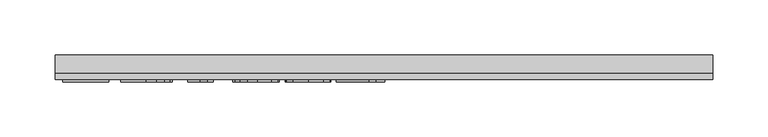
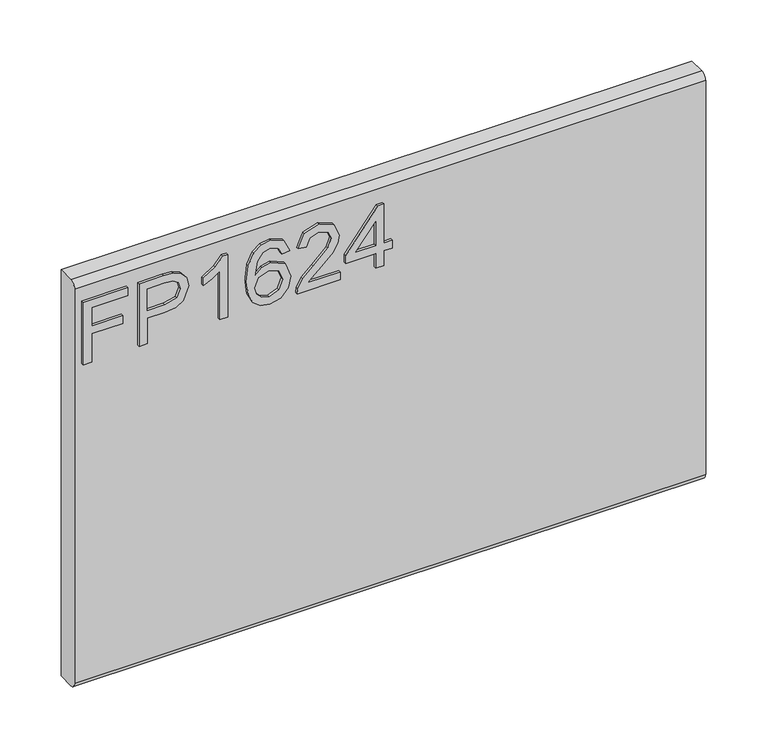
"""IFC4 building model written with IfcOpenShell, lengths in millimetres: furniture geometry."""

from ifc_helpers import new_model, si_unit, frame, origin, place, context, project, spatial, polyline, circle_curve, outline, extrude, source, transform, mapped, element, save
from ifc_brep_helpers import plane_surface, cylinder_surface, advanced_brep


def furniture_d1243616(model_context):
    return source(origin(), model_context, "Body", "SolidModel", [
        extrude(outline(polyline([(476.25, -291.6115385), (476.25, -283.7961538), (504.5807692, -283.7961538), (504.5807692, -254.4884615), (512.3961538, -254.4884615), (512.3961538, -283.7961538), (530.9576923, -283.7961538), (530.9576923, -249.6038462), (538.7730769, -249.6038462), (538.7730769, -291.6115385), (476.25, -291.6115385)])), frame((0.0, -15.0812439, 0.0), z_axis=(0.0, 1.0, 0.0), x_axis=(0.0, 0.0, 1.0)), (0.0, 0.0, 1.0), 2.38125),
        extrude(outline(polyline([(476.25, -238.8576923), (476.25, -231.0423077), (501.65, -231.0423077), (501.65, -215.1520433), (503.0314303, -204.0490835), (507.1757212, -196.995012), (520.6847356, -191.9653846), (529.2099159, -193.8276442), (535.2546274, -198.7504207), (538.1777644, -206.3444712), (538.7730769, -215.6862981), (538.7730769, -238.8576923), (476.25, -238.8576923)]), holes=[polyline([(509.4653846, -231.0423077), (530.9576923, -231.0423077), (530.9576923, -214.8772837), (530.4234375, -207.061899), (526.8820913, -201.7880409), (520.409976, -199.7807692), (512.3350962, -203.1847356), (509.4653846, -214.6941106), (509.4653846, -231.0423077)])]), frame((0.0, -15.0812439, 0.0), z_axis=(0.0, 1.0, 0.0), x_axis=(0.0, 0.0, 1.0)), (0.0, 0.0, 1.0), 2.38125),
        extrude(outline(polyline([(476.25, -154.8423077), (538.7730769, -154.8423077), (538.7730769, -159.8795673), (530.4539663, -166.832512), (523.1423077, -178.2884615), (515.7543269, -178.2884615), (519.7001803, -170.0609375), (524.9740385, -162.6576923), (476.25, -162.6576923), (476.25, -154.8423077)])), frame((0.0, -15.0812439, 0.0), z_axis=(0.0, 1.0, 0.0), x_axis=(0.0, 0.0, 1.0)), (0.0, 0.0, 1.0), 2.38125),
        extrude(outline(polyline([(522.1653846, -96.2269231), (534.3616587, -101.996875), (538.7730769, -114.3457933), (536.9909555, -123.4166767), (531.6445913, -130.4192308), (521.0014724, -135.5480769), (505.4355769, -137.2576923), (491.5907452, -135.7178936), (482.2947115, -131.0984976), (477.0284856, -124.0367939), (475.2730769, -115.1700721), (477.9214543, -104.9276442), (485.5536659, -97.8296875), (496.3379808, -95.25), (510.7323317, -100.7299279), (516.3038462, -114.009976), (514.2660457, -122.5504207), (508.0305288, -129.4423077), (521.9593149, -127.2213341), (529.0649038, -121.8864183), (530.9576923, -114.8342548), (527.7063702, -107.0036058), (521.1884615, -104.0423077), (522.1653846, -96.2269231)]), holes=[polyline([(496.4600962, -129.4423077), (505.1684495, -125.557512), (508.4884615, -116.1012019), (505.1684495, -106.5227764), (496.0784856, -103.0653846), (486.5840144, -106.5685697), (483.0884615, -115.780649), (484.7751803, -122.8251803), (489.6903245, -127.6334736), (496.4600962, -129.4423077)])]), frame((0.0, -15.0812439, 0.0), z_axis=(0.0, 1.0, 0.0), x_axis=(0.0, 0.0, 1.0)), (0.0, 0.0, 1.0), 2.38125),
        extrude(outline(polyline([(484.0653846, -48.3576923), (484.0653846, -79.0544471), (488.0417668, -75.5283654), (495.5594952, -66.5376202), (506.267488, -55.3411659), (513.9302284, -50.7236779), (521.3411058, -49.3346154), (533.7663462, -54.4863582), (538.7730769, -68.4762019), (534.2700721, -82.4202524), (521.1884615, -88.4115385), (520.2115385, -80.5961538), (528.1032452, -77.3066707), (530.9576923, -68.6441106), (528.0345553, -60.3326322), (520.8679087, -57.15), (512.0145433, -60.5234375), (498.9939904, -74.0171875), (489.9345553, -83.8016827), (481.6383413, -88.5489183), (476.25, -89.3884615), (476.25, -48.3576923), (484.0653846, -48.3576923)])), frame((0.0, -15.0812439, 0.0), z_axis=(0.0, 1.0, 0.0), x_axis=(0.0, 0.0, 1.0)), (0.0, 0.0, 1.0), 2.38125),
        extrude(outline(polyline([(476.25, -15.1423077), (476.25, -7.3269231), (490.9038462, -7.3269231), (490.9038462, 0.4884615), (498.7192308, 0.4884615), (498.7192308, -7.3269231), (537.7961538, -7.3269231), (537.7961538, -13.1884615), (498.7192308, -43.4730769), (490.9038462, -43.4730769), (490.9038462, -15.1423077), (476.25, -15.1423077)]), holes=[polyline([(498.7192308, -15.1423077), (498.7192308, -33.8564904), (522.8675481, -15.1423077), (498.7192308, -15.1423077)])]), frame((0.0, -15.0812439, 0.0), z_axis=(0.0, 1.0, 0.0), x_axis=(0.0, 0.0, 1.0)), (0.0, 0.0, 1.0), 2.38125),
        advanced_brep(
        [(298.45, 9.5250061, 558.8), (298.45, -6.7309939, 558.8), (298.45, -12.6999939, 552.831), (298.45, -12.6999939, 158.369), (298.45, -6.7309939, 152.4), (298.45, 9.5250061, 152.4), (-298.45, 9.5250061, 558.8), (-298.45, 9.5250061, 152.4), (-298.45, -6.7309939, 152.4), (-298.45, -12.6999939, 158.369), (-298.45, -12.6999939, 552.8310121), (-298.45, -6.7309939, 558.8)],
        [
            (0, 1),
            (1, 2, circle_curve(frame((298.45, -6.7309939, 552.831), z_axis=(1.0, 0.0, 0.0), x_axis=(0.0, 1.0, 0.0)), 5.969)),
            (2, 3),
            (3, 4, circle_curve(frame((298.45, -6.7309939, 158.369), z_axis=(1.0, 0.0, 0.0), x_axis=(0.0, 1.0, 0.0)), 5.969)),
            (4, 5),
            (5, 0),
            (6, 7),
            (7, 8),
            (8, 9, circle_curve(frame((-298.45, -6.7309939, 158.369), z_axis=(-1.0, 0.0, 0.0), x_axis=(0.0, 1.0, 0.0)), 5.969)),
            (9, 10),
            (10, 11, circle_curve(frame((-298.45, -6.7309939, 552.831), z_axis=(-1.0, 0.0, 0.0), x_axis=(0.0, 1.0, 0.0)), 5.969)),
            (11, 6),
            (0, 6),
            (11, 1),
            (10, 2),
            (9, 3),
            (8, 4),
            (7, 5),
        ],
        [
            plane_surface(frame((298.45, -6.7309939, 558.8), z_axis=(1.0, 0.0, 0.0), x_axis=(0.0, -1.0, 0.0))),
            plane_surface(frame((-298.45, -6.7309939, 558.8), z_axis=(-1.0, 0.0, 0.0), x_axis=(0.0, 1.0, 0.0))),
            plane_surface(frame((298.45, 9.5250061, 558.8), z_axis=(0.0, 0.0, 1.0), x_axis=(-1.0, 0.0, 0.0))),
            cylinder_surface(frame((-298.45, -6.7309939, 552.831), z_axis=(1.0, 0.0, 0.0), x_axis=(0.0, 1.0, 0.0)), 5.969),
            plane_surface(frame((298.45, -12.6999939, 552.8310121), z_axis=(0.0, -1.0, 0.0), x_axis=(-1.0, 0.0, 0.0))),
            cylinder_surface(frame((-298.45, -6.7309939, 158.369), z_axis=(1.0, 0.0, 0.0), x_axis=(0.0, 1.0, 0.0)), 5.969),
            plane_surface(frame((298.45, -6.7309939, 152.4), z_axis=(0.0, 0.0, -1.0), x_axis=(-1.0, 0.0, 0.0))),
            plane_surface(frame((298.45, 9.5250061, 152.4), z_axis=(0.0, 1.0, 0.0), x_axis=(-1.0, 0.0, 0.0))),
        ],
        [
            (0, [[1, 2, 3, 4, 5, 6]]),
            (1, [[7, 8, 9, 10, 11, 12]]),
            (2, [[-1, 13, -12, 14]]),
            (3, [[-2, -14, -11, 15]]),
            (4, [[-3, -15, -10, 16]]),
            (5, [[-4, -16, -9, 17]]),
            (6, [[-5, -17, -8, 18]]),
            (7, [[-6, -18, -7, -13]]),
        ],
    ),
    ])


if __name__ == "__main__":
    model = new_model("IFC4")
    model_context = context("Model", 3, world=origin())
    ifc_project = project(units=[si_unit("LENGTHUNIT", "METRE", prefix="MILLI")], contexts=[model_context])
    site = spatial("IfcSite", under=ifc_project)
    building = spatial("IfcBuilding", under=site)
    placement = place(None, origin())
    furniture_shape = furniture_d1243616(model_context)
    element("IfcFurniture", 1, ObjectType="HermanMiller_Ethospace_E1420_FaceTile : Ptd 16\"H x 24\"W", at=placement, inside=building, context=model_context, shape_type="MappedRepresentation", body=[
        mapped(furniture_shape, transform((0.0, 0.0, 0.0), x_axis=(1.0, 0.0, 0.0), y_axis=(0.0, 1.0, 0.0), z_axis=(0.0, 0.0, 1.0))),
    ])
    save(model, "model.ifc")
